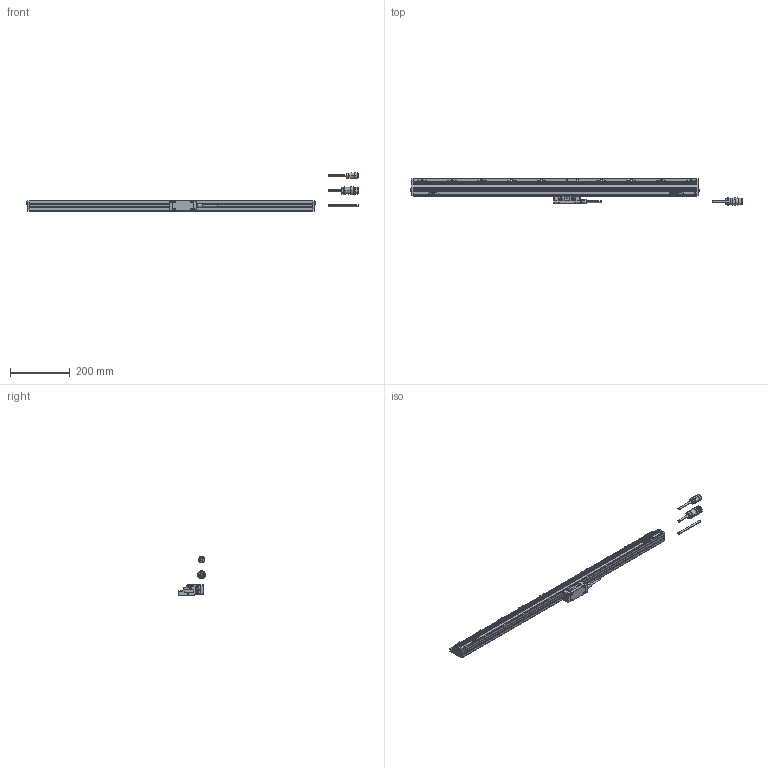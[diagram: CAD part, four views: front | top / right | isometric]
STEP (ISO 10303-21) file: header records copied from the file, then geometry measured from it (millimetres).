
FILE_DESCRIPTION(('Creo Elements/Direct Modeling STEP Export'),'2;1');
FILE_NAME('AT402E-840.stp','2018-02-21T11:55:49',(''),(''),'Creo Elements/Direct Modeling STEP processor for AP214 (Solid Model)','Creo Elements/Direct Modeling 18.1B 29-Sep-2012 (C) Parametric Technology GmbH','');
FILE_SCHEMA(('AUTOMOTIVE_DESIGN { 1 0 10303 214 1 1 1 1 }'));
Length unit declared in the file: millimetre
Products named in the file (6): Scale_840; Connector_typeB; Connector_typeA; Detector_Head; Connector_typeC; AT402E-840
Assembly tree (5 placements, depth 2):
  AT402E-840
    Connector_typeC
    Detector_Head
    Connector_typeA
    Connector_typeB
    Scale_840
Bounding box: 1109.63 x 90 x 130.25 mm (x, y, z)
Volume: 1655477.6 mm3; surface area: 224313.6 mm2
Topology: 5 solids, 5 shells, 1195 faces, 3445 edges, 2336 vertices
Faces by surface type: plane 668, cylinder 393, torus 50, bspline 46, cone 26, sphere 12
Entity records: 44446 total; most frequent: CARTESIAN_POINT 13569, ORIENTED_EDGE 6890, DIRECTION 5931, EDGE_CURVE 3445, VERTEX_POINT 2336, VECTOR 2043, LINE 2043, AXIS2_PLACEMENT_3D 1944
